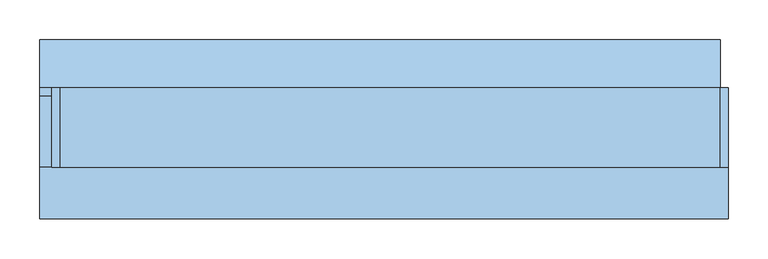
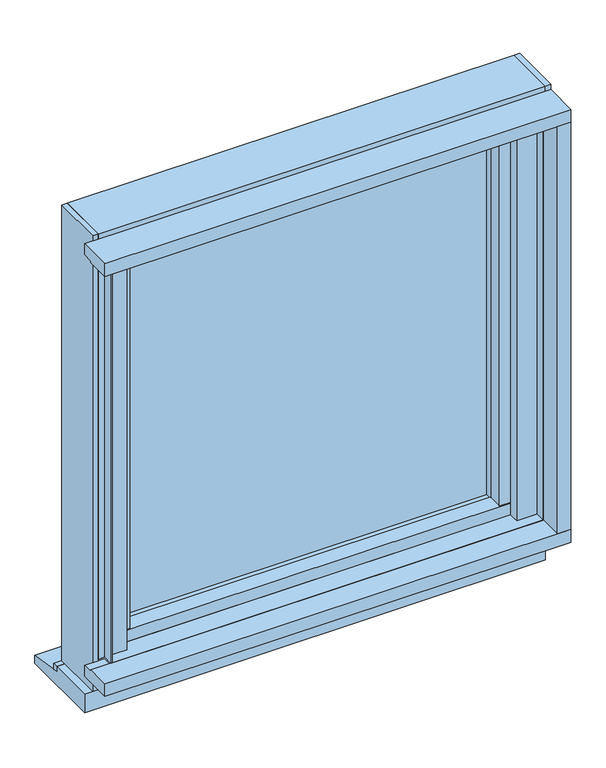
"""IFC4 building model written with IfcOpenShell, lengths in millimetres: window geometry, FNSⅡ100R_個別防火_RC枠_単窓 : 隠蔽突出排煙."""

from ifc_helpers import new_model, si_unit, frame, origin, place, context, project, spatial, polyline, outline, extrude, faceted_brep, source, transform, mapped, element, save


def window_5b862731(model_context):
    return source(origin(), model_context, "Body", "SolidModel", [
        extrude(outline(polyline([(-343.0, 25.0), (343.0, 25.0), (343.0, 19.0), (-343.0, 19.0), (-343.0, 25.0)])), frame((0.0, 0.0, 919.0), z_axis=(0.0, 0.0, 1.0), x_axis=(1.0, 0.0, 0.0)), (0.0, 0.0, 1.0), 735.0),
        extrude(outline(polyline([(-343.0, 43.0), (343.0, 43.0), (343.0, 37.0), (-343.0, 37.0), (-343.0, 43.0)])), frame((0.0, 0.0, 919.0), z_axis=(0.0, 0.0, 1.0), x_axis=(1.0, 0.0, 0.0)), (0.0, 0.0, 1.0), 735.0),
        faceted_brep([(-400.0, 50.5, 869.0), (-400.0, 55.0, 869.0), (-362.2, 55.0, 869.0), (-362.2, -17.0, 869.0), (-374.5, -17.0, 869.0), (-374.5, 50.5, 869.0), (-374.5, 50.5, 1700.0), (-400.0, 50.5, 1700.0), (-374.5, -17.0, 1684.0), (-374.5, 45.0, 1684.0), (-374.5, 45.0, 1700.0), (-362.2, -17.0, 1684.0), (-343.0, 6.0, 1654.0), (-362.2, 6.0, 1654.0), (-362.2, 6.0, 919.0), (-343.0, 6.0, 919.0), (-362.2, 45.0, 1700.0), (-362.2, 55.0, 1700.0), (-400.0, 55.0, 1700.0), (-362.2, 55.0, 1654.0), (-343.0, 55.0, 1654.0), (-343.0, 55.0, 919.0), (-362.2, 55.0, 919.0), (-362.2, 45.0, 1684.0)], [[[0, 1, 2, 3, 4, 5]], [[6, 7, 0, 5]], [[5, 4, 8, 9, 10, 6]], [[4, 3, 11, 8]], [[12, 13, 14, 15]], [[7, 6, 10, 16, 17, 18]], [[18, 17, 19, 20, 21, 22, 2, 1]], [[7, 18, 1, 0]], [[3, 2, 22, 14, 13, 19, 17, 16, 23, 11]], [[23, 9, 8, 11]], [[9, 23, 16, 10]], [[13, 12, 20, 19]], [[22, 21, 15, 14]], [[20, 12, 15, 21]]]),
        faceted_brep([(400.0, 50.5, 869.0), (376.8, 50.5, 869.0), (376.8, -17.0, 869.0), (363.0, -17.0, 869.0), (363.0, 55.0, 869.0), (400.0, 55.0, 869.0), (400.0, 55.0, 1700.0), (400.0, 50.5, 1700.0), (376.8, -17.0, 1684.0), (363.0, -17.0, 1684.0), (376.8, 50.5, 1700.0), (343.0, 6.0, 1654.0), (343.0, 55.0, 1654.0), (343.0, 55.0, 919.0), (343.0, 6.0, 919.0), (363.0, 6.0, 1654.0), (363.0, 6.0, 919.0), (363.0, 55.0, 1700.0), (363.0, 45.0, 1700.0), (376.8, 45.0, 1700.0), (363.0, 55.0, 919.0), (363.0, 55.0, 1654.0), (363.0, 45.0, 1684.0), (376.8, 45.0, 1684.0)], [[[0, 1, 2, 3, 4, 5]], [[6, 7, 0, 5]], [[3, 2, 8, 9]], [[7, 10, 1, 0]], [[11, 12, 13, 14]], [[15, 11, 14, 16]], [[7, 6, 17, 18, 19, 10]], [[17, 6, 5, 4, 20, 13, 12, 21]], [[4, 3, 9, 22, 18, 17, 21, 15, 16, 20]], [[2, 1, 10, 19, 23, 8]], [[23, 22, 9, 8]], [[22, 23, 19, 18]], [[21, 12, 11, 15]], [[16, 14, 13, 20]]]),
        extrude(outline(polyline([(-343.0, -22.5), (-362.2, -22.5), (-362.2, 6.0), (-343.0, 6.0), (-343.0, -22.5)])), frame((0.0, 0.0, 922.0), z_axis=(0.0, 0.0, 1.0), x_axis=(1.0, 0.0, 0.0)), (0.0, 0.0, 1.0), 729.0),
        extrude(outline(polyline([(343.0, -22.5), (343.0, 6.0), (363.0, 6.0), (363.0, -22.5), (343.0, -22.5)])), frame((0.0, 0.0, 922.0), z_axis=(0.0, 0.0, 1.0), x_axis=(1.0, 0.0, 0.0)), (0.0, 0.0, 1.0), 729.0),
        extrude(outline(polyline([(363.0, 6.0), (363.0, -25.0), (-362.2, -25.0), (-362.2, 6.0), (363.0, 6.0)])), frame((0.0, 0.0, 900.0), z_axis=(0.0, 0.0, 1.0), x_axis=(1.0, 0.0, 0.0)), (0.0, 0.0, 1.0), 22.0),
        extrude(outline(polyline([(55.0, 869.0), (-17.0, 869.0), (-17.0, 900.0), (6.0, 900.0), (6.0, 919.0), (55.0, 919.0), (55.0, 869.0)])), frame((-362.2, 0.0, 0.0), z_axis=(1.0, 0.0, 0.0), x_axis=(0.0, 1.0, 0.0)), (0.0, 0.0, 1.0), 725.2),
        extrude(outline(polyline([(55.0, 1700.0), (55.0, 1654.0), (6.0, 1654.0), (6.0, 1673.2), (-17.0, 1673.2), (-17.0, 1684.0), (45.0, 1684.0), (45.0, 1700.0), (55.0, 1700.0)])), frame((-362.2, 0.0, 0.0), z_axis=(1.0, 0.0, 0.0), x_axis=(0.0, 1.0, 0.0)), (0.0, 0.0, 1.0), 725.2),
        extrude(outline(polyline([(363.0, 6.0), (363.0, -25.0), (-362.2, -25.0), (-362.2, 6.0), (363.0, 6.0)])), frame((0.0, 0.0, 1651.0), z_axis=(0.0, 0.0, 1.0), x_axis=(1.0, 0.0, 0.0)), (0.0, 0.0, 1.0), 22.2),
        faceted_brep([(-425.0, 55.0, 1735.0), (-425.0, -45.0, 1735.0), (-415.0, -45.0, 1735.0), (-415.0, 55.0, 1735.0), (-425.0, 55.0, 840.0), (-415.0, 55.0, 840.0), (-415.0, -45.0, 840.0), (-425.0, -45.0, 840.0), (-415.0, 55.0, 850.0), (-415.0, -26.0, 850.0), (-415.0, -26.0, 1700.0), (-415.0, 55.0, 1700.0), (-400.0, 55.0, 1700.0), (-400.0, 55.0, 850.0), (-368.0, -26.0, 1700.0), (-368.0, -21.0, 1700.0), (-400.0, -21.0, 1700.0), (-400.0, -21.0, 850.0), (-368.0, -21.0, 850.0), (-368.0, -26.0, 850.0)], [[[0, 1, 2, 3]], [[4, 5, 6, 7]], [[1, 0, 4, 7]], [[2, 1, 7, 6]], [[3, 2, 6, 5, 8, 9, 10, 11]], [[0, 3, 11, 12, 13, 8, 5, 4]], [[12, 11, 10, 14, 15, 16]], [[13, 17, 18, 19, 9, 8]], [[14, 10, 9, 19]], [[12, 16, 17, 13]], [[15, 14, 19, 18]], [[16, 15, 18, 17]]]),
        faceted_brep([(415.0, -45.0, 1735.0), (425.0, -45.0, 1735.0), (425.0, 55.0, 1735.0), (415.0, 55.0, 1735.0), (415.0, -45.0, 840.0), (415.0, 55.0, 840.0), (425.0, 55.0, 840.0), (425.0, -45.0, 840.0), (415.0, -26.0, 1700.0), (368.0, -26.0, 1700.0), (368.0, -26.0, 850.0), (415.0, -26.0, 850.0), (400.0, -21.0, 1700.0), (400.0, 55.0, 1700.0), (400.0, 55.0, 850.0), (400.0, -21.0, 850.0), (368.0, -21.0, 1700.0), (415.0, 55.0, 1700.0), (415.0, 55.0, 850.0), (368.0, -21.0, 850.0)], [[[0, 1, 2, 3]], [[4, 5, 6, 7]], [[8, 9, 10, 11]], [[12, 13, 14, 15]], [[12, 16, 9, 8, 17, 13]], [[15, 14, 18, 11, 10, 19]], [[1, 0, 4, 7]], [[2, 1, 7, 6]], [[3, 2, 6, 5, 18, 14, 13, 17]], [[0, 3, 17, 8, 11, 18, 5, 4]], [[16, 12, 15, 19]], [[9, 16, 19, 10]]]),
        extrude(outline(polyline([(400.0, -65.0), (400.0, -45.0), (362.0, -45.0), (362.0, -26.0), (415.0, -26.0), (415.0, -45.0), (403.0, -45.0), (403.0, -65.0), (400.0, -65.0)])), frame((0.0, 0.0, 900.0), z_axis=(0.0, 0.0, 1.0), x_axis=(1.0, 0.0, 0.0)), (0.0, 0.0, 1.0), 803.0),
        extrude(outline(polyline([(-415.0, -45.0), (-415.0, -26.0), (-362.0, -26.0), (-362.0, -45.0), (-400.0, -45.0), (-400.0, -65.0), (-403.0, -65.0), (-403.0, -45.0), (-415.0, -45.0)])), frame((0.0, 0.0, 900.0), z_axis=(0.0, 0.0, 1.0), x_axis=(1.0, 0.0, 0.0)), (0.0, 0.0, 1.0), 803.0),
        extrude(outline(polyline([(-45.0, 890.0), (-45.0, 897.0), (-65.0, 897.0), (-65.0, 900.0), (-26.0, 900.0), (-26.0, 890.0), (-45.0, 890.0)])), frame((-403.0, 0.0, 0.0), z_axis=(1.0, 0.0, 0.0), x_axis=(0.0, 1.0, 0.0)), (0.0, 0.0, 1.0), 806.0),
        extrude(outline(polyline([(55.0, 840.0), (-45.0, 840.0), (-45.0, 890.0), (-21.0, 890.0), (-21.0, 865.0), (44.0, 865.0), (44.0, 850.0), (55.0, 850.0), (55.0, 840.0)])), frame((-415.0, 0.0, 0.0), z_axis=(1.0, 0.0, 0.0), x_axis=(0.0, 1.0, 0.0)), (0.0, 0.0, 1.0), 830.0),
        extrude(outline(polyline([(-26.0, 1673.0), (-47.5, 1673.0), (-47.5, 1700.0), (-65.0, 1700.0), (-65.0, 1703.0), (-45.0, 1703.0), (-45.0, 1712.5), (-26.0, 1712.5), (-26.0, 1673.0)])), frame((-400.0, 0.0, 0.0), z_axis=(1.0, 0.0, 0.0), x_axis=(0.0, 1.0, 0.0)), (0.0, 0.0, 1.0), 800.0),
        extrude(outline(polyline([(55.0, 1700.0), (-21.0, 1700.0), (-21.0, 1679.0), (-26.0, 1679.0), (-26.0, 1712.5), (-45.0, 1712.5), (-45.0, 1735.0), (55.0, 1735.0), (55.0, 1700.0)])), frame((-415.0, 0.0, 0.0), z_axis=(1.0, 0.0, 0.0), x_axis=(0.0, 1.0, 0.0)), (0.0, 0.0, 1.0), 830.0),
        extrude(outline(polyline([(-110.0, 900.0), (-65.0, 900.0), (-65.0, 897.0), (-45.0, 897.0), (-45.0, 875.0), (-110.0, 875.0), (-110.0, 900.0)])), frame((-440.0, 0.0, 0.0), z_axis=(1.0, 0.0, 0.0), x_axis=(0.0, 1.0, 0.0)), (0.0, 0.0, 1.0), 865.0),
        extrude(outline(polyline([(45.0, 840.0), (55.0, 840.0), (55.0, 828.4285714), (45.0, 830.0), (45.0, 840.0)])), frame((-440.0, 0.0, 0.0), z_axis=(1.0, 0.0, 0.0), x_axis=(0.0, 1.0, 0.0)), (0.0, 0.0, 1.0), 855.0),
        extrude(outline(polyline([(-45.0, 804.0), (-45.0, 840.0), (45.0, 840.0), (45.0, 830.0), (115.0, 819.0), (115.0, 804.0), (-45.0, 804.0)])), frame((-440.0, 0.0, 0.0), z_axis=(1.0, 0.0, 0.0), x_axis=(0.0, 1.0, 0.0)), (0.0, 0.0, 1.0), 855.0),
        extrude(outline(polyline([(425.0, -45.0), (425.0, -110.0), (400.0, -110.0), (400.0, -65.0), (403.0, -65.0), (403.0, -45.0), (425.0, -45.0)])), frame((0.0, 0.0, 900.0), z_axis=(0.0, 0.0, 1.0), x_axis=(1.0, 0.0, 0.0)), (0.0, 0.0, 1.0), 800.0),
        extrude(outline(polyline([(-110.0, 1725.0), (-45.0, 1725.0), (-45.0, 1703.0), (-65.0, 1703.0), (-65.0, 1700.0), (-110.0, 1700.0), (-110.0, 1725.0)])), frame((-440.0, 0.0, 0.0), z_axis=(1.0, 0.0, 0.0), x_axis=(0.0, 1.0, 0.0)), (0.0, 0.0, 1.0), 865.0),
    ])


if __name__ == "__main__":
    model = new_model("IFC4")
    model_context = context("Model", 3, world=origin())
    ifc_project = project(units=[si_unit("LENGTHUNIT", "METRE", prefix="MILLI")], contexts=[model_context])
    site = spatial("IfcSite", under=ifc_project)
    building = spatial("IfcBuilding", under=site)
    placement = place(None, origin())
    window_shape = window_5b862731(model_context)
    element("IfcWindow", 1, ObjectType="FNSⅡ100R_個別防火_RC枠_単窓 : 隠蔽突出排煙", at=placement, inside=building, context=model_context, shape_type="MappedRepresentation", body=[
        mapped(window_shape, transform((0.0, 0.0, 0.0), x_axis=(1.0, 0.0, 0.0), y_axis=(0.0, 1.0, 0.0), z_axis=(0.0, 0.0, 1.0))),
    ])
    save(model, "model.ifc")
